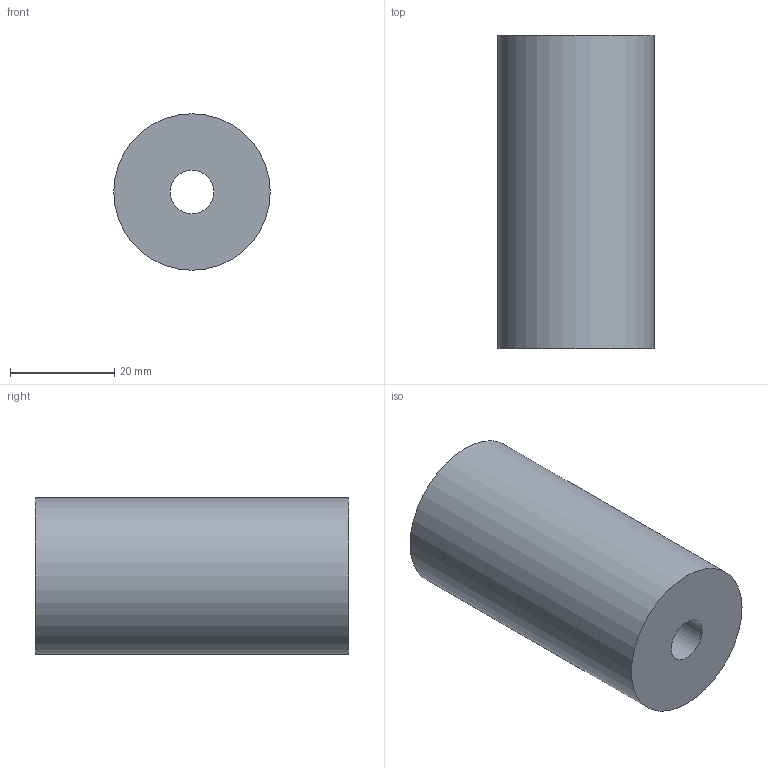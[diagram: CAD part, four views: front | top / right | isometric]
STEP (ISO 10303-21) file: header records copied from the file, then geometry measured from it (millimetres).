
FILE_DESCRIPTION(('Open CASCADE Model'),'2;1');
FILE_NAME('Open CASCADE Shape Model','2026-10-04T01:02:33',('Author'),( 'Open CASCADE'),'Open CASCADE STEP processor 8.0','Open CASCADE 8.0' ,'Unknown');
FILE_SCHEMA(('AUTOMOTIVE_DESIGN { 1 0 10303 214 1 1 1 1 }'));
Length unit declared in the file: millimetre
Products named in the file (1): Open CASCADE STEP translator 8.0 290
Bounding box: 30 x 60 x 30 mm (x, y, z)
Volume: 39086.4 mm3; surface area: 8541.1 mm2
Topology: 1 solids, 1 shells, 4 faces, 6 edges, 4 vertices
Faces by surface type: cylinder 2, plane 2
Full cylindrical faces by diameter (mm): 8.4 x1, 30 x1
Entity records: 186 total; most frequent: DIRECTION 32, CARTESIAN_POINT 27, ORIENTED_EDGE 12, PCURVE 12, DEFINITIONAL_REPRESENTATION 12, LINE 10, VECTOR 10, AXIS2_PLACEMENT_3D 9
